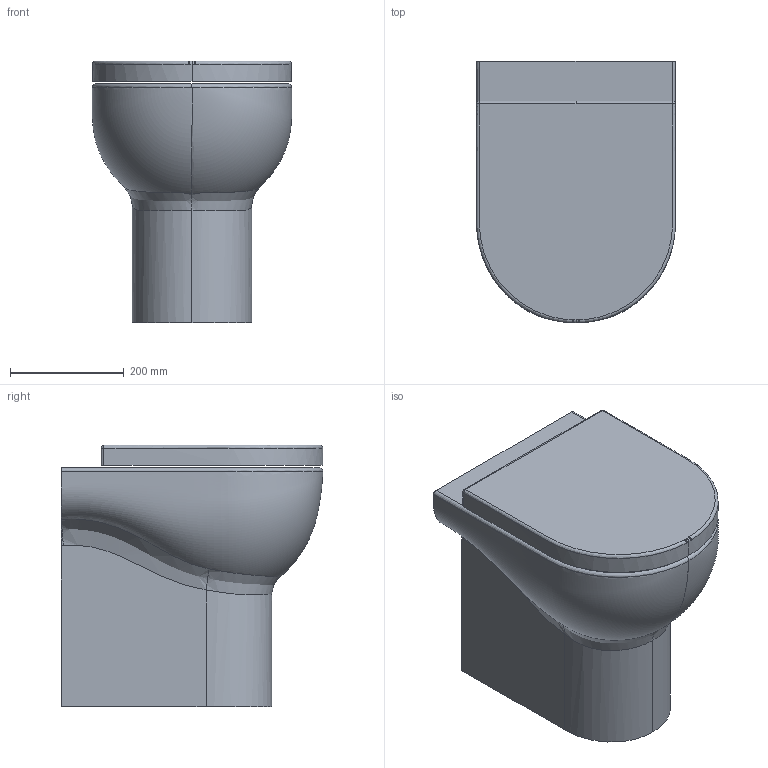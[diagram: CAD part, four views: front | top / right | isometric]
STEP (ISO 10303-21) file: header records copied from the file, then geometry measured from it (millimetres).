
FILE_DESCRIPTION (( 'STEP AP214' ), '1' );
FILE_NAME ('nuv 146P_NUV1845.STEP', '2017-12-07T10:59:33', ( '' ), ( '' ), 'SwSTEP 2.0', 'SolidWorks 2018', '' );
FILE_SCHEMA (( 'AUTOMOTIVE_DESIGN' ));
Products named in the file (3): NUV 1845; NUV146_P; nuv 146P_NUV1845
Assembly tree (2 placements, depth 2):
  nuv 146P_NUV1845
    NUV146_P
    NUV 1845
Bounding box: 350.43 x 459.93 x 460 mm (x, y, z)
Volume: 34760666.7 mm3; surface area: 1223875.3 mm2
Topology: 2 solids, 2 shells, 112 faces, 273 edges, 158 vertices
Faces by surface type: bspline 50, plane 27, cylinder 19, cone 8, torus 6, sphere 2
Entity records: 150054 total; most frequent: CARTESIAN_POINT 147788, ORIENTED_EDGE 526, DIRECTION 329, EDGE_CURVE 263, VERTEX_POINT 158, AXIS2_PLACEMENT_3D 130, B_SPLINE_CURVE_WITH_KNOTS 127, EDGE_LOOP 115
